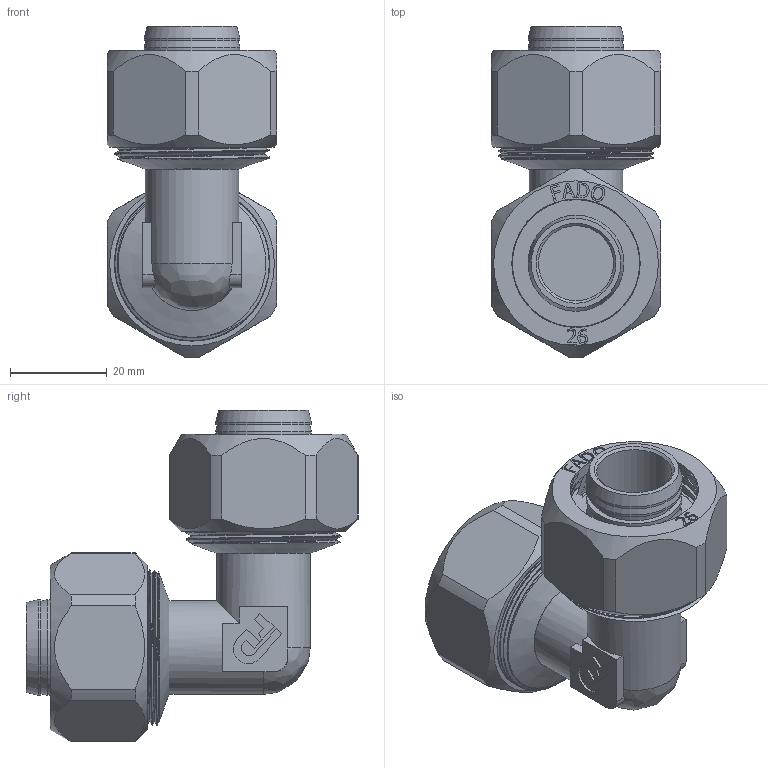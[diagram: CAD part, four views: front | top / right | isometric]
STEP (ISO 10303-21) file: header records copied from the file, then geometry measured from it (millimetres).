
FILE_DESCRIPTION(/* description */ (''),/* implementation_level */ '2;1');
FILE_NAME(/* name */ 'C:\Users\Doom\Desktop\Фадотех\Обжим\RFU03 26 30.03.2020\RFU03 26 30.03.2020.stp',/* time_stamp */ '2022-06-01T15:27:20+03:00',/* author */ ('Doom'),/* organization */ (''),/* preprocessor_version */ 'ST-DEVELOPER v18',/* originating_system */ 'Autodesk Inventor 2020',/* authorisation */ '');
FILE_SCHEMA (('AUTOMOTIVE_DESIGN { 1 0 10303 214 3 1 1 }'));
Length unit declared in the file: millimetre
Products named in the file (5): RFU03 26 30.03.2020; RFU03 26 30.03.2020_1; FADO MC Nut-26 15.02.2020; FADO MC Socket-26 15.02.2020; Olive 26 15.02.2020
Assembly tree (7 placements, depth 2):
  RFU03 26 30.03.2020
    RFU03 26 30.03.2020_1
    FADO MC Nut-26 15.02.2020  x2
    FADO MC Socket-26 15.02.2020  x2
    Olive 26 15.02.2020  x2
Bounding box: 35 x 68.5 x 68.5 mm (x, y, z)
Volume: 34447.8 mm3; surface area: 46444.3 mm2
Topology: 11 solids, 11 shells, 1052 faces, 2917 edges, 1967 vertices
Faces by surface type: bspline 542, plane 308, cylinder 160, cone 36, torus 6
Full cylindrical faces by diameter (mm): 15.5 x2, 16.3 x2, 17.6 x4, 19.3 x3, 19.8 x10, 21 x2, 24 x4, 24.5 x2, 26.5 x2, 29.776 x2, 30 x2, 30.517 x24, 30.6 x2, 32 x19
Entity records: 38102 total; most frequent: CARTESIAN_POINT 24764, ORIENTED_EDGE 3238, DIRECTION 1864, EDGE_CURVE 1619, VERTEX_POINT 1093, LINE 660, VECTOR 660, B_SPLINE_CURVE_WITH_KNOTS 657
